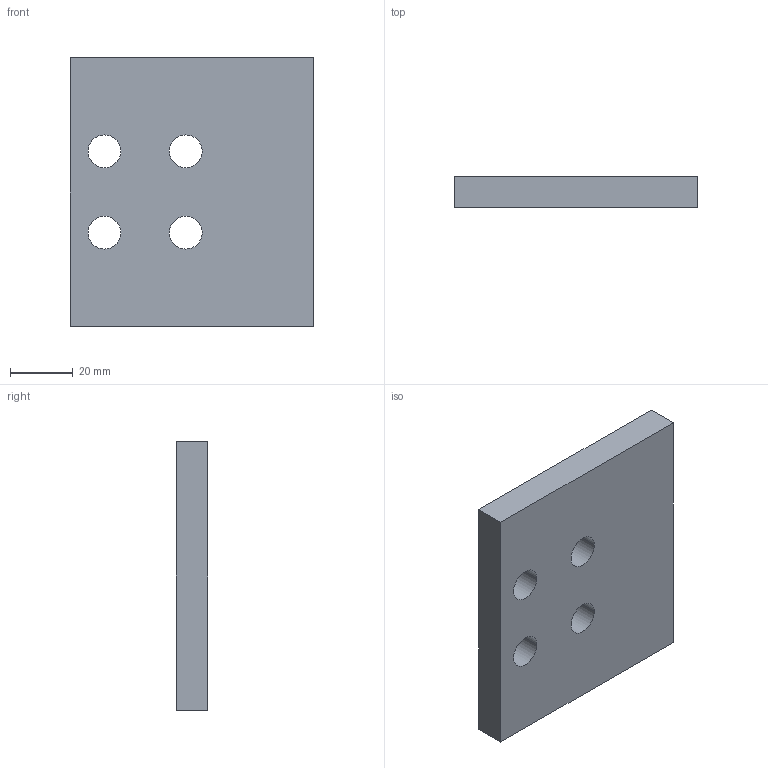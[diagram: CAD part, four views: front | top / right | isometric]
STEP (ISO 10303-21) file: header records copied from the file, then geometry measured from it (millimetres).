
FILE_DESCRIPTION( ( '' ), '1' );
FILE_NAME( 'E:/04 嬴檜蠱滌/0404 ZIMMER/040414 ZIMMER CAD download/Adapt plate/PLK for LKP, LKPS/PLK45-10.stp', '2020-04-16T10:19:58', ( '' ), ( '' ), ' ', ' ', ' ' );
FILE_SCHEMA( ( 'automotive_design' ) );
Length unit declared in the file: millimetre
Products named in the file (1): 1
Bounding box: 78 x 10 x 86 mm (x, y, z)
Volume: 63616.4 mm3; surface area: 17322.7 mm2
Topology: 1 solids, 1 shells, 14 faces, 36 edges, 24 vertices
Faces by surface type: cylinder 8, plane 6
Entity records: 888 total; most frequent: DIRECTION 82, STYLED_ITEM 75, PRESENTATION_STYLE_ASSIGNMENT 75, CARTESIAN_POINT 75, COLOUR_RGB 75, ORIENTED_EDGE 72, EDGE_CURVE 36, CURVE_STYLE 36
